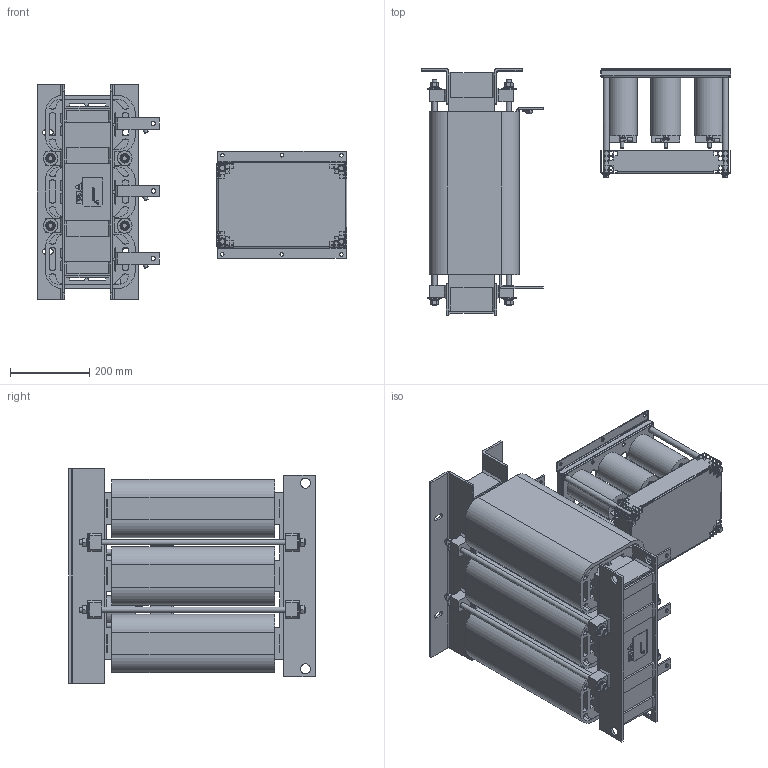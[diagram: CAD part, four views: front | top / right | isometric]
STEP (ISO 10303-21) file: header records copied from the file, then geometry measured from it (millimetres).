
FILE_DESCRIPTION(/* description */ ('raw material description'),/* implementation_level */ '2;1');
FILE_NAME(/* name */ 'C:\Users\Oliver.Volic\Desktop\FN5040HV-300-99.stp',/* time_stamp */ '2020-02-17T12:59:30+01:00',/* author */ ('Oliver.Volic'),/* organization */ ('Schaffner EMV AG'),/* preprocessor_version */ 'ST-DEVELOPER v16.5',/* originating_system */ 'Autodesk Inventor 2017',/* authorisation */ '');
FILE_SCHEMA (('CONFIG_CONTROL_DESIGN'));
Products named in the file (1): FN5040HV-300-99
Bounding box: 781.03 x 621.4 x 540 mm (x, y, z)
Volume: 46007021.7 mm3; surface area: 5197716.2 mm2
Topology: 2 solids, 2 shells, 3263 faces, 9092 edges, 5902 vertices
Faces by surface type: plane 2096, cylinder 684, bspline 263, cone 152, torus 68
Full cylindrical faces by diameter (mm): 6 x1, 7.1 x18, 8 x25, 8.3 x8, 8.7 x2, 9 x16, 9.5 x18, 10 x2, 10.3 x2, 11 x9, 12 x22, 12.611 x8, 13 x8, 14 x8, 15 x4, 18 x4, 20 x1, 24 x8, 25 x13, 37 x8, 75 x6
Entity records: 110663 total; most frequent: CARTESIAN_POINT 26475, ORIENTED_EDGE 17402, DIRECTION 15283, EDGE_CURVE 8701, LINE 5857, VECTOR 5857, VERTEX_POINT 5806, AXIS2_PLACEMENT_3D 4713
